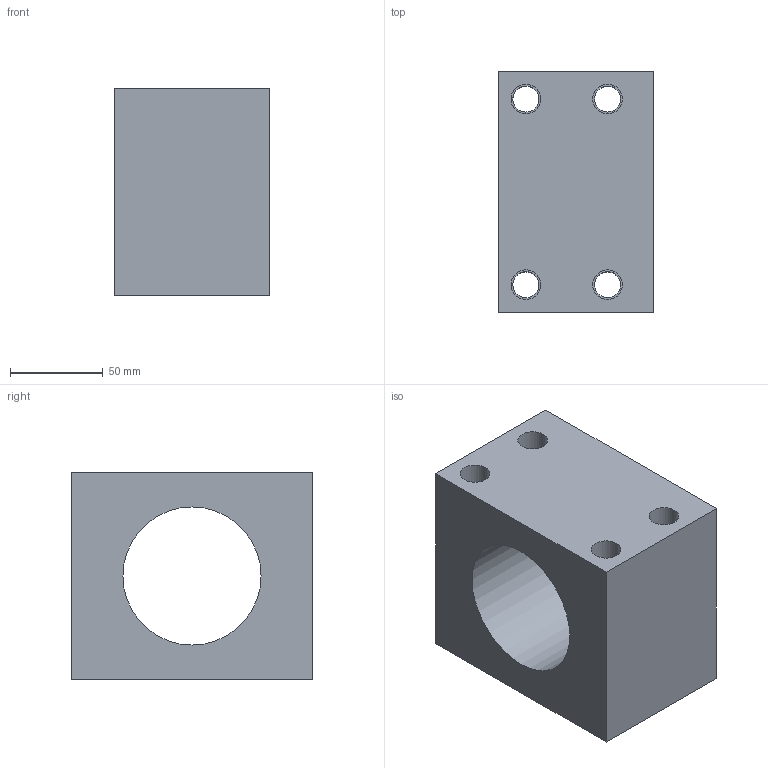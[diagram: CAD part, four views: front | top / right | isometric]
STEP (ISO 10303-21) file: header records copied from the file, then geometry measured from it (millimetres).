
FILE_DESCRIPTION(/* description */ (''),/* implementation_level */ '2;1');
FILE_NAME(/* name */ 'NH32F.stp',/* time_stamp */ '2017-08-19T13:57:09+08:00',/* author */ (''),/* organization */ (''),/* preprocessor_version */ 'ST-DEVELOPER v15',/* originating_system */ 'SIEMENS PLM Software NX 9.0',/* authorisation */ '');
FILE_SCHEMA (('CONFIG_CONTROL_DESIGN'));
Length unit declared in the file: millimetre
Products named in the file (1): NH32F
Bounding box: 84 x 130 x 112 mm (x, y, z)
Volume: 765193.7 mm3; surface area: 104024 mm2
Topology: 1 solids, 1 shells, 39 faces, 91 edges, 62 vertices
Faces by surface type: cylinder 19, plane 14, cone 6
Full cylindrical faces by diameter (mm): 6.8 x6, 14 x4, 16 x4, 22 x4, 74.4 x1
Entity records: 994 total; most frequent: DIRECTION 168, CARTESIAN_POINT 142, ORIENTED_EDGE 100, FACE_BOUND 86, EDGE_LOOP 82, AXIS2_PLACEMENT_3D 78, VERTEX_POINT 52, EDGE_CURVE 50
